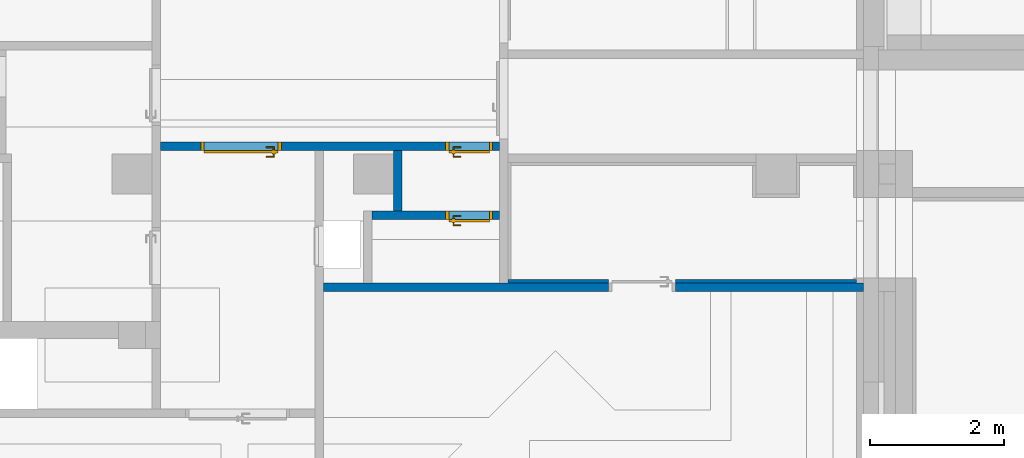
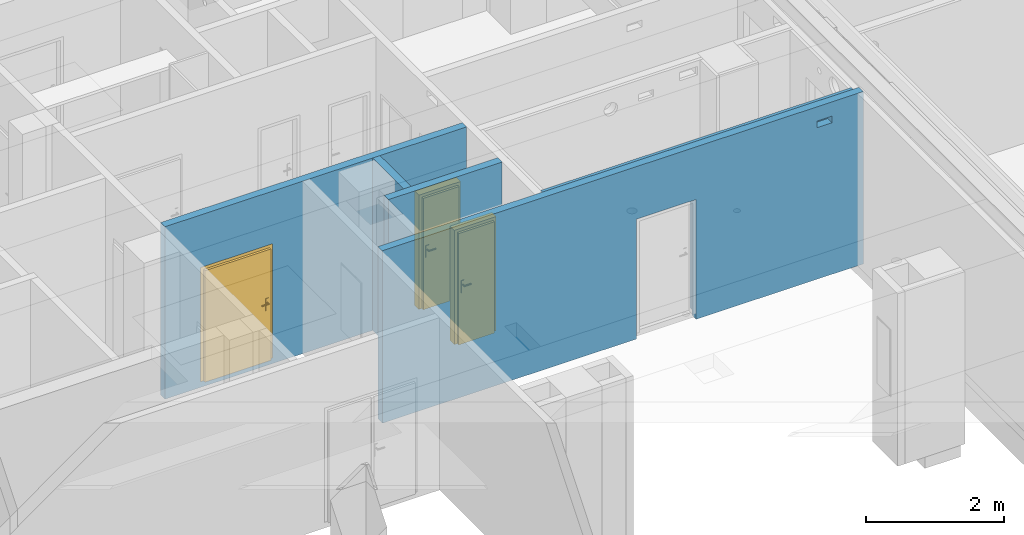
# One storey, part 33 of 84: 5 walls, 3 doors, 7 openings.
"""IFC4 building model written with IfcOpenShell, lengths in metres."""

from ifc_helpers import new_model, entity, si_unit, converted_unit, derived_unit, frame, frame_2d, origin, origin_with_axes, place, context, subcontext, project, spatial, polyline, rectangle, outline, extrude, closed_shell, open_shell, surface_model, source, transform, mapped, material, layer, layer_set, layer_usage, type_object, element, fill, save


model = new_model("IFC4")

# Units and contexts
model_context = context("Model", 3, precision=1e-05, world=origin())
body_context = subcontext(model_context, "Body", "Model", "MODEL_VIEW")
ifc_project = project(units=[si_unit("LENGTHUNIT", "METRE"), si_unit("AREAUNIT", "SQUARE_METRE"), si_unit("VOLUMEUNIT", "CUBIC_METRE"), si_unit("MASSUNIT", "GRAM", prefix="KILO"), converted_unit("PLANEANGLEUNIT", "DEGREE", entity("IfcPlaneAngleMeasure", 0.0174532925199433), si_unit("PLANEANGLEUNIT", "RADIAN"), dimensions=[0, 0, 0, 0, 0, 0, 0]), derived_unit("THERMALTRANSMITTANCEUNIT", [(si_unit("POWERUNIT", "WATT"), 1), (si_unit("THERMODYNAMICTEMPERATUREUNIT", "KELVIN"), -1), (si_unit("LENGTHUNIT", "METRE"), -2)]), derived_unit("VOLUMETRICFLOWRATEUNIT", [(si_unit("LENGTHUNIT", "METRE"), 3), (converted_unit("TIMEUNIT", "hour", entity("IfcTimeMeasure", 3600.0), si_unit("TIMEUNIT", "SECOND"), dimensions=[0, 0, 1, 0, 0, 0, 0]), -1), (si_unit("LENGTHUNIT", "METRE"), -1)])], contexts=[model_context])

# Site, building, storey
site_placement = place(None, origin())
site = spatial("IfcSite", under=ifc_project, at=site_placement, Name="3. ASŘ", CompositionType="ELEMENT")
building_placement = place(site_placement, origin())
building = spatial("IfcBuilding", under=site, at=building_placement, Name="Pavilon C", CompositionType="ELEMENT")
storey_placement = place(building_placement, frame((0.0, 0.0, -3.3)))
storey = spatial("IfcBuildingStorey", under=building, at=storey_placement, Name="Půdorys 1.PP", CompositionType="ELEMENT", Elevation=-3.3)

# Wall, openings
ifc_material_1 = material(Name="ZDIVO Z CDm")
ifc_layer_1 = layer(ifc_material_1, 0.125)
ifc_layer_set_1 = layer_set([ifc_layer_1])
ifc_layer_usage_1 = layer_usage(ifc_layer_set_1, "AXIS2", "POSITIVE", 0.0)
wall_1_placement = place(storey_placement, frame((51.25, 11.575, -0.1), z_axis=(0.0, 0.0, 1.0), x_axis=(-1.0, 0.0, 0.0)))
wall_1 = element("IfcWall", 1, at=wall_1_placement, inside=storey, material=ifc_layer_usage_1, Name="ZDIVO Z CDm", context=body_context, shape_type="SweptSolid", body=[
    extrude(rectangle(XDim=8.05, YDim=0.125, at=frame_2d((4.025, 0.0625), x_axis=(1.0, 0.0))), origin_with_axes(), (0.0, 0.0, 1.0), 3.05),
])
opening_1_placement = place(wall_1_placement, frame((2.8, 0.0, 0.0), z_axis=(0.0, 1.0, 0.0), x_axis=(0.0, 0.0, 1.0)))
element("IfcOpeningElement", 2, at=opening_1_placement, cuts=wall_1, Name="Dveřní otvor", ObjectType="Opening", context=body_context, shape_type="SweptSolid", body=[
    extrude(outline(polyline([(0.0, 1.0), (2.12, 1.0), (2.12, 0.0), (0.0, 0.0), (0.0, 1.0)])), origin_with_axes(), (0.0, 0.0, 1.0), 0.125),
])
opening_2_placement = place(wall_1_placement, frame((0.777165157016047, 0.125, 2.68), z_axis=(0.0, -1.0, 0.0), x_axis=(0.0, 0.0, 1.0)))
element("IfcOpeningElement", 3, at=opening_2_placement, cuts=wall_1, Name="Prostup stěnou", ObjectType="Opening", context=body_context, shape_type="SweptSolid", body=[
    extrude(outline(polyline([(0.0, 0.25), (0.12, 0.25), (0.12, 0.0), (0.0, 0.0), (0.0, 0.25)])), origin_with_axes(), (0.0, 0.0, 1.0), 0.125),
])

# Wall, openings, doors
ifc_material_2 = material(Name="ZDIVO Z CDm")
ifc_layer_2 = layer(ifc_material_2, 0.125)
ifc_layer_set_2 = layer_set([ifc_layer_2])
ifc_layer_usage_2 = layer_usage(ifc_layer_set_2, "AXIS2", "POSITIVE", 0.0)
wall_2_placement = place(storey_placement, frame((45.825, 13.675, -0.1), z_axis=(0.0, 0.0, 1.0), x_axis=(-1.0, 0.0, 0.0)))
wall_2 = element("IfcWall", 4, at=wall_2_placement, inside=storey, material=ifc_layer_usage_2, Name="ZDIVO Z CDm", context=body_context, shape_type="SweptSolid", body=[
    extrude(rectangle(XDim=5.05, YDim=0.125, at=frame_2d((2.525, 0.0625), x_axis=(1.0, 0.0))), origin_with_axes(), (0.0, 0.0, 1.0), 3.05),
])
opening_3_placement = place(wall_2_placement, frame((0.0999999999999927, 0.0, 0.1), z_axis=(0.0, 1.0, 0.0), x_axis=(0.0, 0.0, 1.0)))
opening_3 = element("IfcOpeningElement", 5, at=opening_3_placement, cuts=wall_2, Name="Dveřní otvor", ObjectType="Opening", context=body_context, shape_type="SweptSolid", body=[
    extrude(outline(polyline([(0.0, 0.7), (2.02, 0.7), (2.02, 0.0), (0.0, 0.0), (0.0, 0.7)])), origin_with_axes(), (0.0, 0.0, 1.0), 0.125),
])
opening_4_placement = place(wall_2_placement, frame((3.25000000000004, 0.0, 0.1), z_axis=(0.0, 1.0, 0.0), x_axis=(0.0, 0.0, 1.0)))
opening_4 = element("IfcOpeningElement", 6, at=opening_4_placement, cuts=wall_2, Name="Dveřní otvor", ObjectType="Opening", context=body_context, shape_type="SweptSolid", body=[
    extrude(outline(polyline([(0.0, 1.2), (2.02, 1.2), (2.02, 0.0), (0.0, 0.0), (0.0, 1.2)])), origin_with_axes(), (0.0, 0.0, 1.0), 0.125),
])
door_type_1 = type_object("IfcDoorType", Name="D101", OperationType="NOTDEFINED", ParameterTakesPrecedence=False, PredefinedType="DOOR")
shared_shape_1 = source(origin_with_axes(), body_context, "Body", "SurfaceModel", [
    surface_model("IfcShellBasedSurfaceModel", [(0.0, 0.125, 2.02), (0.0, 0.125, -7.65404249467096e-18), (0.05, 0.125, -7.65404249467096e-18), (0.05, 0.125, 2.02), (0.0, 0.0, 7.65404249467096e-18), (0.0, 2.41584530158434e-16, 2.02), (0.05, 2.41584530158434e-16, 2.02), (0.05, 0.0, 7.65404249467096e-18)], [closed_shell([[[0, 1, 2, 3]], [[4, 5, 6, 7]], [[1, 0, 5, 4]], [[2, 1, 4, 7]], [[3, 2, 7, 6]], [[0, 3, 6, 5]]], orient=[[False], [False], [False], [False], [False], [False]])]),
    surface_model("IfcShellBasedSurfaceModel", [(0.65, 0.125, 2.02), (0.65, 0.125, -7.65404249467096e-18), (0.7, 0.125, -7.65404249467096e-18), (0.7, 0.125, 2.02), (0.65, 0.0, 7.65404249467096e-18), (0.65, 2.41584530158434e-16, 2.02), (0.7, 2.41584530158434e-16, 2.02), (0.7, 0.0, 7.65404249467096e-18)], [closed_shell([[[0, 1, 2, 3]], [[4, 5, 6, 7]], [[1, 0, 5, 4]], [[2, 1, 4, 7]], [[3, 2, 7, 6]], [[0, 3, 6, 5]]], orient=[[False], [False], [False], [False], [False], [False]])]),
    surface_model("IfcShellBasedSurfaceModel", [(0.05, 0.125, 2.02), (0.05, 0.125, 1.97), (0.65, 0.125, 1.97), (0.65, 0.125, 2.02), (0.05, 2.41584530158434e-16, 1.97), (0.05, 2.41584530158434e-16, 2.02), (0.65, 2.41584530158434e-16, 2.02), (0.65, 2.41584530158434e-16, 1.97)], [closed_shell([[[0, 1, 2, 3]], [[4, 5, 6, 7]], [[1, 0, 5, 4]], [[2, 1, 4, 7]], [[3, 2, 7, 6]], [[0, 3, 6, 5]]], orient=[[False], [False], [False], [False], [False], [False]])]),
    surface_model("IfcShellBasedSurfaceModel", [(0.05, 0.165, 1.97), (0.05, 0.165, -1.25526296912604e-17), (0.65, 0.165, -1.25526296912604e-17), (0.65, 0.165, 1.97), (0.05, 0.125, -7.65404249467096e-18), (0.05, 0.125, 1.97), (0.65, 0.125, 1.97), (0.65, 0.125, -7.65404249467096e-18)], [closed_shell([[[0, 1, 2, 3]], [[4, 5, 6, 7]], [[1, 0, 5, 4]], [[2, 1, 4, 7]], [[3, 2, 7, 6]], [[0, 3, 6, 5]]], orient=[[False], [False], [False], [False], [False], [False]])]),
    surface_model("IfcShellBasedSurfaceModel", [(0.56, 0.125, 1.125), (0.56, 0.125, 0.91), (0.61, 0.125, 0.91), (0.61, 0.125, 1.125), (0.56, 0.115, 0.91), (0.56, 0.115, 1.125), (0.61, 0.115, 1.125), (0.61, 0.115, 0.91)], [closed_shell([[[0, 1, 2, 3]], [[4, 5, 6, 7]], [[1, 0, 5, 4]], [[2, 1, 4, 7]], [[3, 2, 7, 6]], [[0, 3, 6, 5]]], orient=[[False], [False], [False], [False], [False], [False]])]),
    surface_model("IfcShellBasedSurfaceModel", [(0.585, 0.115, 1.06), (0.58, 0.115, 1.05866025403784), (0.576339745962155, 0.115, 1.055), (0.575, 0.115, 1.05), (0.576339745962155, 0.115, 1.045), (0.58, 0.115, 1.04133974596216), (0.585, 0.115, 1.04), (0.59, 0.115, 1.04133974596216), (0.593660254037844, 0.115, 1.045), (0.595, 0.115, 1.05), (0.593660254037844, 0.115, 1.055), (0.59, 0.115, 1.05866025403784), (0.59, 0.0700000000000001, 1.05866025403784), (0.585, 0.0750000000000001, 1.06), (0.593660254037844, 0.0663397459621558, 1.055), (0.595, 0.0650000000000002, 1.05), (0.593660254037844, 0.0663397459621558, 1.045), (0.59, 0.0700000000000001, 1.04133974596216), (0.585, 0.0750000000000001, 1.04), (0.58, 0.0800000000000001, 1.04133974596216), (0.576339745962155, 0.0836602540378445, 1.045), (0.575, 0.0850000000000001, 1.05), (0.576339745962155, 0.0836602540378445, 1.055), (0.58, 0.0800000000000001, 1.05866025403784), (0.47, 0.0700000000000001, 1.05866025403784), (0.47, 0.0750000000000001, 1.06), (0.47, 0.0663397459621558, 1.055), (0.47, 0.0650000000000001, 1.05), (0.47, 0.0663397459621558, 1.045), (0.47, 0.0700000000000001, 1.04133974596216), (0.47, 0.0750000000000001, 1.04), (0.47, 0.0800000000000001, 1.04133974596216), (0.47, 0.0836602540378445, 1.045), (0.47, 0.0850000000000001, 1.05), (0.47, 0.0836602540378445, 1.055), (0.47, 0.0800000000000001, 1.05866025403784)], [open_shell([[[0, 1, 2, 3, 4, 5, 6, 7, 8, 9, 10, 11]], [[0, 11, 12, 13]], [[11, 10, 14, 12]], [[10, 9, 15, 14]], [[9, 8, 16, 15]], [[8, 7, 17, 16]], [[7, 6, 18, 17]], [[6, 5, 19, 18]], [[5, 4, 20, 19]], [[4, 3, 21, 20]], [[3, 2, 22, 21]], [[2, 1, 23, 22]], [[1, 0, 13, 23]], [[13, 12, 24, 25]], [[12, 14, 26, 24]], [[14, 15, 27, 26]], [[15, 16, 28, 27]], [[16, 17, 29, 28]], [[17, 18, 30, 29]], [[18, 19, 31, 30]], [[19, 20, 32, 31]], [[20, 21, 33, 32]], [[21, 22, 34, 33]], [[22, 23, 35, 34]], [[23, 13, 25, 35]]], orient=[[False], [False], [False], [False], [False], [False], [False], [False], [False], [False], [False], [False], [False], [False], [False], [False], [False], [False], [False], [False], [False], [False], [False], [False], [False]])]),
    surface_model("IfcShellBasedSurfaceModel", [(0.56, 0.165, 1.125), (0.61, 0.165, 1.125), (0.61, 0.165, 0.91), (0.56, 0.165, 0.91), (0.56, 0.175, 0.91), (0.61, 0.175, 0.91), (0.61, 0.175, 1.125), (0.56, 0.175, 1.125)], [closed_shell([[[0, 1, 2, 3]], [[4, 5, 6, 7]], [[3, 4, 7, 0]], [[2, 5, 4, 3]], [[1, 6, 5, 2]], [[0, 7, 6, 1]]], orient=[[False], [False], [False], [False], [False], [False]])]),
    surface_model("IfcShellBasedSurfaceModel", [(0.585, 0.175, 1.06), (0.59, 0.175, 1.05866025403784), (0.593660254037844, 0.175, 1.055), (0.595, 0.175, 1.05), (0.593660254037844, 0.175, 1.045), (0.59, 0.175, 1.04133974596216), (0.585, 0.175, 1.04), (0.58, 0.175, 1.04133974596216), (0.576339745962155, 0.175, 1.045), (0.575, 0.175, 1.05), (0.576339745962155, 0.175, 1.055), (0.58, 0.175, 1.05866025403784), (0.585, 0.215, 1.06), (0.59, 0.22, 1.05866025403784), (0.593660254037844, 0.223660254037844, 1.055), (0.595, 0.225, 1.05), (0.593660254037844, 0.223660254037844, 1.045), (0.59, 0.22, 1.04133974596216), (0.585, 0.215, 1.04), (0.58, 0.21, 1.04133974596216), (0.576339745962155, 0.206339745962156, 1.045), (0.575, 0.205, 1.05), (0.576339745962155, 0.206339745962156, 1.055), (0.58, 0.21, 1.05866025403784), (0.47, 0.215, 1.06), (0.47, 0.22, 1.05866025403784), (0.47, 0.223660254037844, 1.055), (0.47, 0.225, 1.05), (0.47, 0.223660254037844, 1.045), (0.47, 0.22, 1.04133974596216), (0.47, 0.215, 1.04), (0.47, 0.21, 1.04133974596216), (0.47, 0.206339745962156, 1.045), (0.47, 0.205, 1.05), (0.47, 0.206339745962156, 1.055), (0.47, 0.21, 1.05866025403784)], [open_shell([[[0, 1, 2, 3, 4, 5, 6, 7, 8, 9, 10, 11]], [[0, 12, 13, 1]], [[1, 13, 14, 2]], [[2, 14, 15, 3]], [[3, 15, 16, 4]], [[4, 16, 17, 5]], [[5, 17, 18, 6]], [[6, 18, 19, 7]], [[7, 19, 20, 8]], [[8, 20, 21, 9]], [[9, 21, 22, 10]], [[10, 22, 23, 11]], [[11, 23, 12, 0]], [[12, 24, 25, 13]], [[13, 25, 26, 14]], [[14, 26, 27, 15]], [[15, 27, 28, 16]], [[16, 28, 29, 17]], [[17, 29, 30, 18]], [[18, 30, 31, 19]], [[19, 31, 32, 20]], [[20, 32, 33, 21]], [[21, 33, 34, 22]], [[22, 34, 35, 23]], [[23, 35, 24, 12]]], orient=[[False], [False], [False], [False], [False], [False], [False], [False], [False], [False], [False], [False], [False], [False], [False], [False], [False], [False], [False], [False], [False], [False], [False], [False], [False]])]),
])
door_1_placement = place(opening_3_placement, frame((0.0, 0.0, 0.0), z_axis=(1.0, 0.0, 0.0), x_axis=(0.0, 1.0, -1.22464679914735e-16)))
door_1 = element("IfcDoor", 7, at=door_1_placement, inside=storey, type_object=door_type_1, Name="D101", OverallHeight=2.02, OverallWidth=0.7, context=body_context, shape_type="MappedRepresentation", body=[
    mapped(shared_shape_1, transform((0.0, 0.0, 0.0), x_axis=(1.0, 0.0, 0.0), y_axis=(0.0, 1.0, 0.0), z_axis=(0.0, 0.0, 1.0), scale=1.0)),
])
fill(opening_3, door_1)
door_type_2 = type_object("IfcDoorType", Name="D101", OperationType="NOTDEFINED", ParameterTakesPrecedence=False, PredefinedType="DOOR")
shared_shape_2 = source(origin_with_axes(), body_context, "Body", "SurfaceModel", [
    surface_model("IfcShellBasedSurfaceModel", [(0.0, 0.125, 2.02), (0.0, 0.125, -7.65404249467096e-18), (0.05, 0.125, -7.65404249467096e-18), (0.05, 0.125, 2.02), (0.0, 0.0, 7.65404249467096e-18), (0.0, 2.41584530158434e-16, 2.02), (0.05, 2.41584530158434e-16, 2.02), (0.05, 0.0, 7.65404249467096e-18)], [closed_shell([[[0, 1, 2, 3]], [[4, 5, 6, 7]], [[1, 0, 5, 4]], [[2, 1, 4, 7]], [[3, 2, 7, 6]], [[0, 3, 6, 5]]], orient=[[False], [False], [False], [False], [False], [False]])]),
    surface_model("IfcShellBasedSurfaceModel", [(1.15, 0.125, 2.02), (1.15, 0.125, -7.65404249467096e-18), (1.2, 0.125, -7.65404249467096e-18), (1.2, 0.125, 2.02), (1.15, 0.0, 7.65404249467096e-18), (1.15, 2.41584530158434e-16, 2.02), (1.2, 2.41584530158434e-16, 2.02), (1.2, 0.0, 7.65404249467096e-18)], [closed_shell([[[0, 1, 2, 3]], [[4, 5, 6, 7]], [[1, 0, 5, 4]], [[2, 1, 4, 7]], [[3, 2, 7, 6]], [[0, 3, 6, 5]]], orient=[[False], [False], [False], [False], [False], [False]])]),
    surface_model("IfcShellBasedSurfaceModel", [(0.05, 0.125, 2.02), (0.05, 0.125, 1.97), (1.15, 0.125, 1.97), (1.15, 0.125, 2.02), (0.05, 2.41584530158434e-16, 1.97), (0.05, 2.41584530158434e-16, 2.02), (1.15, 2.41584530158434e-16, 2.02), (1.15, 2.41584530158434e-16, 1.97)], [closed_shell([[[0, 1, 2, 3]], [[4, 5, 6, 7]], [[1, 0, 5, 4]], [[2, 1, 4, 7]], [[3, 2, 7, 6]], [[0, 3, 6, 5]]], orient=[[False], [False], [False], [False], [False], [False]])]),
    surface_model("IfcShellBasedSurfaceModel", [(0.05, 0.165, 1.97), (0.05, 0.165, -1.25526296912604e-17), (1.15, 0.165, -1.25526296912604e-17), (1.15, 0.165, 1.97), (0.05, 0.125, -7.65404249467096e-18), (0.05, 0.125, 1.97), (1.15, 0.125, 1.97), (1.15, 0.125, -7.65404249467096e-18)], [closed_shell([[[0, 1, 2, 3]], [[4, 5, 6, 7]], [[1, 0, 5, 4]], [[2, 1, 4, 7]], [[3, 2, 7, 6]], [[0, 3, 6, 5]]], orient=[[False], [False], [False], [False], [False], [False]])]),
    surface_model("IfcShellBasedSurfaceModel", [(1.06, 0.125, 1.125), (1.06, 0.125, 0.91), (1.11, 0.125, 0.91), (1.11, 0.125, 1.125), (1.06, 0.115, 0.91), (1.06, 0.115, 1.125), (1.11, 0.115, 1.125), (1.11, 0.115, 0.91)], [closed_shell([[[0, 1, 2, 3]], [[4, 5, 6, 7]], [[1, 0, 5, 4]], [[2, 1, 4, 7]], [[3, 2, 7, 6]], [[0, 3, 6, 5]]], orient=[[False], [False], [False], [False], [False], [False]])]),
    surface_model("IfcShellBasedSurfaceModel", [(1.085, 0.115, 1.06), (1.08, 0.115, 1.05866025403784), (1.07633974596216, 0.115, 1.055), (1.075, 0.115, 1.05), (1.07633974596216, 0.115, 1.045), (1.08, 0.115, 1.04133974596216), (1.085, 0.115, 1.04), (1.09, 0.115, 1.04133974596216), (1.09366025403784, 0.115, 1.045), (1.095, 0.115, 1.05), (1.09366025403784, 0.115, 1.055), (1.09, 0.115, 1.05866025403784), (1.09, 0.0700000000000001, 1.05866025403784), (1.085, 0.0750000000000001, 1.06), (1.09366025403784, 0.0663397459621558, 1.055), (1.095, 0.0650000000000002, 1.05), (1.09366025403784, 0.0663397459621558, 1.045), (1.09, 0.0700000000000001, 1.04133974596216), (1.085, 0.0750000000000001, 1.04), (1.08, 0.0800000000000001, 1.04133974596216), (1.07633974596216, 0.0836602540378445, 1.045), (1.075, 0.0850000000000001, 1.05), (1.07633974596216, 0.0836602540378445, 1.055), (1.08, 0.0800000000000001, 1.05866025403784), (0.97, 0.0700000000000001, 1.05866025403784), (0.97, 0.0750000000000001, 1.06), (0.97, 0.0663397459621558, 1.055), (0.97, 0.0650000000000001, 1.05), (0.97, 0.0663397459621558, 1.045), (0.97, 0.0700000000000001, 1.04133974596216), (0.97, 0.0750000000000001, 1.04), (0.97, 0.0800000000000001, 1.04133974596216), (0.97, 0.0836602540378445, 1.045), (0.97, 0.0850000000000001, 1.05), (0.97, 0.0836602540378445, 1.055), (0.97, 0.0800000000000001, 1.05866025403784)], [open_shell([[[0, 1, 2, 3, 4, 5, 6, 7, 8, 9, 10, 11]], [[0, 11, 12, 13]], [[11, 10, 14, 12]], [[10, 9, 15, 14]], [[9, 8, 16, 15]], [[8, 7, 17, 16]], [[7, 6, 18, 17]], [[6, 5, 19, 18]], [[5, 4, 20, 19]], [[4, 3, 21, 20]], [[3, 2, 22, 21]], [[2, 1, 23, 22]], [[1, 0, 13, 23]], [[13, 12, 24, 25]], [[12, 14, 26, 24]], [[14, 15, 27, 26]], [[15, 16, 28, 27]], [[16, 17, 29, 28]], [[17, 18, 30, 29]], [[18, 19, 31, 30]], [[19, 20, 32, 31]], [[20, 21, 33, 32]], [[21, 22, 34, 33]], [[22, 23, 35, 34]], [[23, 13, 25, 35]]], orient=[[False], [False], [False], [False], [False], [False], [False], [False], [False], [False], [False], [False], [False], [False], [False], [False], [False], [False], [False], [False], [False], [False], [False], [False], [False]])]),
    surface_model("IfcShellBasedSurfaceModel", [(1.06, 0.165, 1.125), (1.11, 0.165, 1.125), (1.11, 0.165, 0.91), (1.06, 0.165, 0.91), (1.06, 0.175, 0.91), (1.11, 0.175, 0.91), (1.11, 0.175, 1.125), (1.06, 0.175, 1.125)], [closed_shell([[[0, 1, 2, 3]], [[4, 5, 6, 7]], [[3, 4, 7, 0]], [[2, 5, 4, 3]], [[1, 6, 5, 2]], [[0, 7, 6, 1]]], orient=[[False], [False], [False], [False], [False], [False]])]),
    surface_model("IfcShellBasedSurfaceModel", [(1.085, 0.175, 1.06), (1.09, 0.175, 1.05866025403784), (1.09366025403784, 0.175, 1.055), (1.095, 0.175, 1.05), (1.09366025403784, 0.175, 1.045), (1.09, 0.175, 1.04133974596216), (1.085, 0.175, 1.04), (1.08, 0.175, 1.04133974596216), (1.07633974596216, 0.175, 1.045), (1.075, 0.175, 1.05), (1.07633974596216, 0.175, 1.055), (1.08, 0.175, 1.05866025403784), (1.085, 0.215, 1.06), (1.09, 0.22, 1.05866025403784), (1.09366025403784, 0.223660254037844, 1.055), (1.095, 0.225, 1.05), (1.09366025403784, 0.223660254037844, 1.045), (1.09, 0.22, 1.04133974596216), (1.085, 0.215, 1.04), (1.08, 0.21, 1.04133974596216), (1.07633974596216, 0.206339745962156, 1.045), (1.075, 0.205, 1.05), (1.07633974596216, 0.206339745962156, 1.055), (1.08, 0.21, 1.05866025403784), (0.97, 0.215, 1.06), (0.97, 0.22, 1.05866025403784), (0.97, 0.223660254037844, 1.055), (0.97, 0.225, 1.05), (0.97, 0.223660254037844, 1.045), (0.97, 0.22, 1.04133974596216), (0.97, 0.215, 1.04), (0.97, 0.21, 1.04133974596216), (0.97, 0.206339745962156, 1.045), (0.97, 0.205, 1.05), (0.97, 0.206339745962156, 1.055), (0.97, 0.21, 1.05866025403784)], [open_shell([[[0, 1, 2, 3, 4, 5, 6, 7, 8, 9, 10, 11]], [[0, 12, 13, 1]], [[1, 13, 14, 2]], [[2, 14, 15, 3]], [[3, 15, 16, 4]], [[4, 16, 17, 5]], [[5, 17, 18, 6]], [[6, 18, 19, 7]], [[7, 19, 20, 8]], [[8, 20, 21, 9]], [[9, 21, 22, 10]], [[10, 22, 23, 11]], [[11, 23, 12, 0]], [[12, 24, 25, 13]], [[13, 25, 26, 14]], [[14, 26, 27, 15]], [[15, 27, 28, 16]], [[16, 28, 29, 17]], [[17, 29, 30, 18]], [[18, 30, 31, 19]], [[19, 31, 32, 20]], [[20, 32, 33, 21]], [[21, 33, 34, 22]], [[22, 34, 35, 23]], [[23, 35, 24, 12]]], orient=[[False], [False], [False], [False], [False], [False], [False], [False], [False], [False], [False], [False], [False], [False], [False], [False], [False], [False], [False], [False], [False], [False], [False], [False], [False]])]),
])
door_2_placement = place(opening_4_placement, frame((0.0, 1.2, 0.0), z_axis=(1.0, 0.0, 0.0), x_axis=(0.0, -1.0, 1.22464679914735e-16)))
door_2 = element("IfcDoor", 8, at=door_2_placement, inside=storey, type_object=door_type_2, Name="D101", OverallHeight=2.02, OverallWidth=1.2, context=body_context, shape_type="MappedRepresentation", body=[
    mapped(shared_shape_2, transform((0.0, 0.0, 0.0), x_axis=(1.0, 0.0, 0.0), y_axis=(0.0, -1.0, 0.0), z_axis=(0.0, 0.0, 1.0), scale=1.0)),
])
fill(opening_4, door_2)

# Wall
ifc_material_3 = material(Name="ZDIVO Z CDm")
ifc_layer_3 = layer(ifc_material_3, 0.125)
ifc_layer_set_3 = layer_set([ifc_layer_3])
ifc_layer_usage_3 = layer_usage(ifc_layer_set_3, "AXIS2", "POSITIVE", 0.0)
wall_3_placement = place(storey_placement, frame((44.25, 13.55, -0.1), z_axis=(0.0, 0.0, 1.0), x_axis=(0.0, -1.0, 0.0)))
element("IfcWall", 9, at=wall_3_placement, inside=storey, material=ifc_layer_usage_3, Name="ZDIVO Z CDm", context=body_context, shape_type="SweptSolid", body=[
    extrude(rectangle(XDim=0.9, YDim=0.125, at=frame_2d((0.45, 0.0625), x_axis=(1.0, 0.0))), origin_with_axes(), (0.0, 0.0, 1.0), 3.05),
])

# Wall, opening, door
ifc_material_4 = material(Name="ZDIVO Z CDm")
ifc_layer_4 = layer(ifc_material_4, 0.125)
ifc_layer_set_4 = layer_set([ifc_layer_4])
ifc_layer_usage_4 = layer_usage(ifc_layer_set_4, "AXIS2", "POSITIVE", 0.0)
wall_4_placement = place(storey_placement, frame((43.925, 12.525, -0.1)))
wall_4 = element("IfcWall", 10, at=wall_4_placement, inside=storey, material=ifc_layer_usage_4, Name="ZDIVO Z CDm", context=body_context, shape_type="SweptSolid", body=[
    extrude(rectangle(XDim=1.9, YDim=0.125, at=frame_2d((0.95, 0.0625), x_axis=(1.0, 0.0))), origin_with_axes(), (0.0, 0.0, 1.0), 3.05),
])
opening_5_placement = place(wall_4_placement, frame((1.80000000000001, 0.125, 0.1), z_axis=(0.0, -1.0, 0.0), x_axis=(0.0, 0.0, 1.0)))
opening_5 = element("IfcOpeningElement", 11, at=opening_5_placement, cuts=wall_4, Name="Dveřní otvor", ObjectType="Opening", context=body_context, shape_type="SweptSolid", body=[
    extrude(outline(polyline([(0.0, 0.7), (2.02, 0.7), (2.02, 0.0), (0.0, 0.0), (0.0, 0.7)])), origin_with_axes(), (0.0, 0.0, 1.0), 0.125),
])
door_type_3 = type_object("IfcDoorType", Name="D101", OperationType="NOTDEFINED", ParameterTakesPrecedence=False, PredefinedType="DOOR")
door_3_placement = place(opening_5_placement, frame((0.0, 0.0, 0.0), z_axis=(1.0, 0.0, 0.0), x_axis=(0.0, 1.0, -1.22464679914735e-16)))
door_3 = element("IfcDoor", 12, at=door_3_placement, inside=storey, type_object=door_type_3, Name="D101", OverallHeight=2.02, OverallWidth=0.7, context=body_context, shape_type="MappedRepresentation", body=[
    mapped(shared_shape_1, transform((0.0, 0.0, 0.0), x_axis=(1.0, 0.0, 0.0), y_axis=(0.0, 1.0, 0.0), z_axis=(0.0, 0.0, 1.0), scale=1.0)),
])
fill(opening_5, door_3)

# Wall, openings
ifc_material_5 = material(Name="AKUSTICKÝ OBKLAD")
ifc_layer_5 = layer(ifc_material_5, 0.05)
ifc_layer_set_5 = layer_set([ifc_layer_5])
ifc_layer_usage_5 = layer_usage(ifc_layer_set_5, "AXIS2", "POSITIVE", 0.0)
wall_5_placement = place(storey_placement, frame((45.95, 11.575, 0.0)))
wall_5 = element("IfcWall", 13, at=wall_5_placement, inside=storey, material=ifc_layer_usage_5, Name="AKUSTICKÝ OBKLAD", context=body_context, shape_type="SweptSolid", body=[
    extrude(rectangle(XDim=5.2, YDim=0.05, at=frame_2d((2.6, 0.025), x_axis=(1.0, 0.0))), origin_with_axes(), (0.0, 0.0, 1.0), 2.95),
])
opening_6_placement = place(wall_5_placement, frame((4.77283484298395, 0.05, 2.58), z_axis=(0.0, -1.0, 0.0), x_axis=(0.0, 0.0, 1.0)))
element("IfcOpeningElement", 14, at=opening_6_placement, cuts=wall_5, Name="UT", ObjectType="Opening", context=body_context, shape_type="SweptSolid", body=[
    extrude(outline(polyline([(0.0, 0.25), (0.12, 0.25), (0.12, 0.0), (0.0, 0.0), (0.0, 0.25)])), origin_with_axes(), (0.0, 0.0, 1.0), 0.05),
])
opening_7_placement = place(wall_5_placement, frame((2.5, 0.05, -0.1), z_axis=(0.0, -1.0, 0.0), x_axis=(0.0, 0.0, 1.0)))
element("IfcOpeningElement", 15, at=opening_7_placement, cuts=wall_5, Name="Dveřní otvor", ObjectType="Opening", context=body_context, shape_type="SweptSolid", body=[
    extrude(outline(polyline([(0.0, 1.0), (2.12, 1.0), (2.12, 0.0), (0.0, 0.0), (0.0, 1.0)])), origin_with_axes(), (0.0, 0.0, 1.0), 0.05),
])

save(model, "model.ifc")
